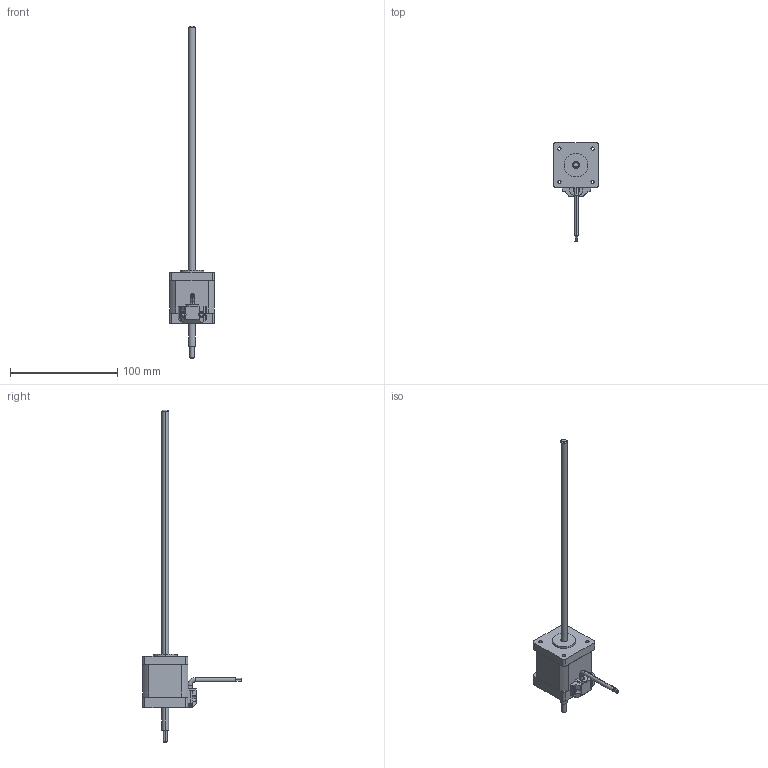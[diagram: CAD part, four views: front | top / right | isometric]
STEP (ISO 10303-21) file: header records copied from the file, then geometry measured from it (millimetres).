
FILE_DESCRIPTION (( 'STEP AP203' ), '1' );
FILE_NAME ('42N248-3.175-2.5-4-310-001.STEP', '2020-03-25T02:31:19', ( '' ), ( '' ), 'SwSTEP 2.0', 'SolidWorks 2017', '' );
FILE_SCHEMA (( 'CONFIG_CONTROL_DESIGN' ));
Length unit declared in the file: millimetre
Products named in the file (1): 42N248-3.175-2.5-4-310-001
Bounding box: 42 x 92 x 310 mm (x, y, z)
Volume: 93347.2 mm3; surface area: 22226.4 mm2
Topology: 2 solids, 2 shells, 141 faces, 364 edges, 239 vertices
Faces by surface type: cylinder 80, plane 55, cone 4, torus 2
Entity records: 4522 total; most frequent: CARTESIAN_POINT 835, DIRECTION 787, ORIENTED_EDGE 728, EDGE_CURVE 364, AXIS2_PLACEMENT_3D 299, VERTEX_POINT 239, LINE 189, VECTOR 189
